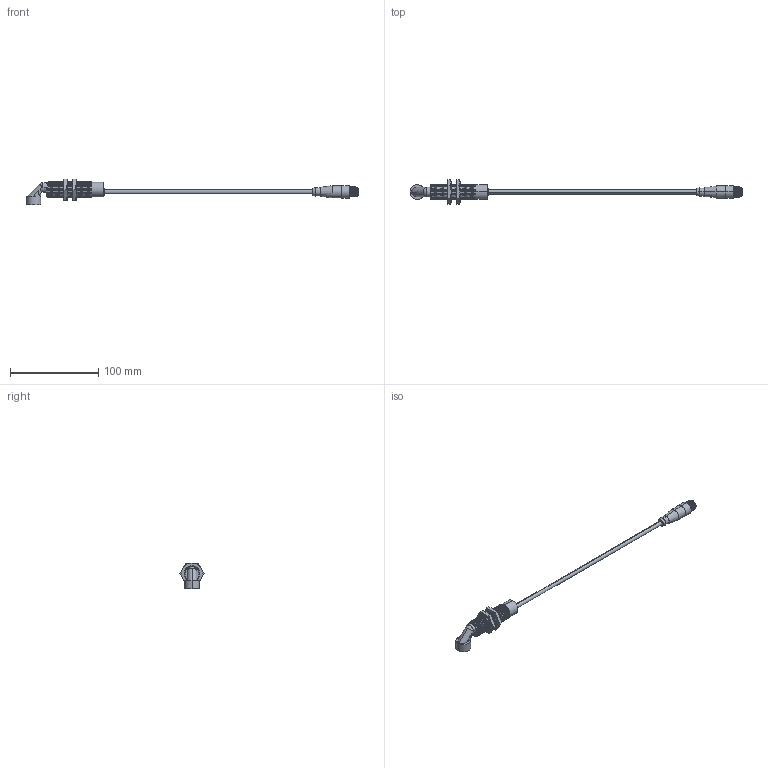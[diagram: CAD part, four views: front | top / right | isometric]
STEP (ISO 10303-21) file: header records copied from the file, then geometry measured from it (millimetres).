
FILE_DESCRIPTION (( 'STEP AP203' ), '1' );
FILE_NAME ('90-29417-087.STEP', '2016-05-26T13:05:05', ( 'Sam' ), ( 'Spade' ), 'SwSTEP 2.0', 'SolidWorks 2002296', '' );
FILE_SCHEMA (( 'CONFIG_CONTROL_DESIGN' ));
Length unit declared in the file: inch
Products named in the file (12): 90-29417-087; Imported29; Imported31; Imported30; Imported38; Imported37; Imported36; Imported39; Imported35; Imported34; Imported33; Imported32
Assembly tree (11 placements, depth 2):
  90-29417-087
    Imported37
    Imported32
    Imported29
    Imported39
    Imported34
    Imported30
    Imported31
    Imported33
    Imported38
    Imported36
    Imported35
Bounding box: 376.48 x 27.69 x 29.39 mm (x, y, z)
Volume: 34024.1 mm3; surface area: 18600.3 mm2
Topology: 11 solids, 11 shells, 623 faces, 1283 edges, 693 vertices
Faces by surface type: cone 298, cylinder 238, plane 72, bspline 15
Entity records: 17958 total; most frequent: CARTESIAN_POINT 3452, DIRECTION 3081, ORIENTED_EDGE 2554, EDGE_CURVE 1277, AXIS2_PLACEMENT_3D 1264, VERTEX_POINT 693, EDGE_LOOP 646, CIRCLE 642
